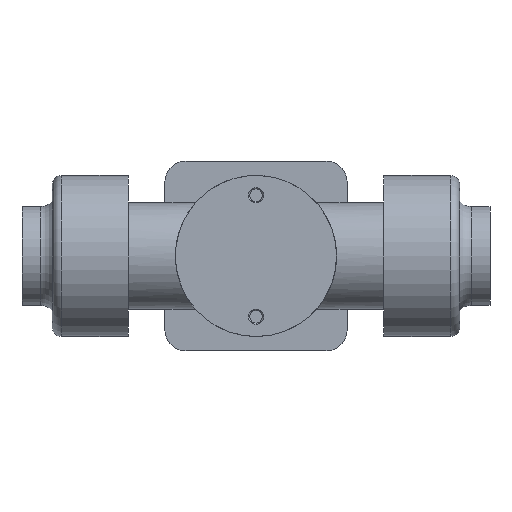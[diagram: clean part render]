
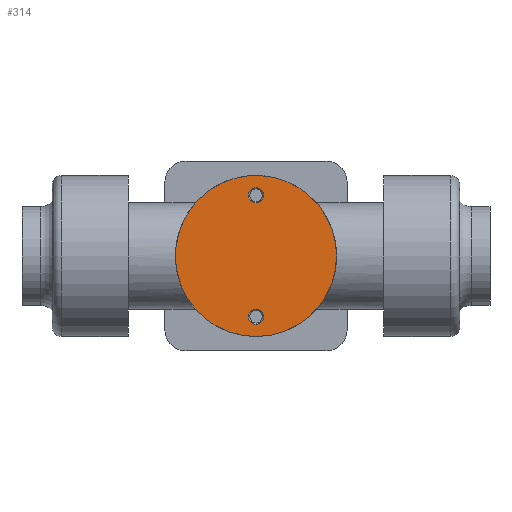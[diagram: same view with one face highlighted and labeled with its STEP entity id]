
A CAD part, front view. The second image highlights one B-rep face of the part: STEP entity #314.
In plain terms, the highlighted planar face has unit normal (0, -1, 0).
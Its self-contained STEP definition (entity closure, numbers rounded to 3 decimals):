
#314 = ADVANCED_FACE( '', ( #724, #725, #726 ), #727, .F. );
#724 = FACE_BOUND( '', #1213, .T. );
#725 = FACE_BOUND( '', #1214, .T. );
#726 = FACE_OUTER_BOUND( '', #1215, .T. );
#727 = PLANE( '', #1216 );
#1213 = EDGE_LOOP( '', ( #2029 ) );
#1214 = EDGE_LOOP( '', ( #2030 ) );
#1215 = EDGE_LOOP( '', ( #2031 ) );
#1216 = AXIS2_PLACEMENT_3D( '', #2032, #2033, #2034 );
#2029 = ORIENTED_EDGE( '', *, *, #2886, .T. );
#2030 = ORIENTED_EDGE( '', *, *, #2889, .F. );
#2031 = ORIENTED_EDGE( '', *, *, #2890, .F. );
#2032 = CARTESIAN_POINT( '', ( 0., -22., 0. ) );
#2033 = DIRECTION( '', ( 0., 1., 0. ) );
#2034 = DIRECTION( '', ( 0., 0., 1. ) );
#2886 = EDGE_CURVE( '', #3500, #3500, #3501, .T. );
#2889 = EDGE_CURVE( '', #3504, #3504, #3505, .T. );
#2890 = EDGE_CURVE( '', #3506, #3506, #3507, .T. );
#3500 = VERTEX_POINT( '', #4351 );
#3501 = CIRCLE( '', #4352, 2.5 );
#3504 = VERTEX_POINT( '', #4355 );
#3505 = CIRCLE( '', #4356, 2.5 );
#3506 = VERTEX_POINT( '', #4357 );
#3507 = CIRCLE( '', #4358, 26.5 );
#4351 = CARTESIAN_POINT( '', ( 0., -22., 22.5 ) );
#4352 = AXIS2_PLACEMENT_3D( '', #4998, #4999, #5000 );
#4355 = CARTESIAN_POINT( '', ( 0., -22., -22.5 ) );
#4356 = AXIS2_PLACEMENT_3D( '', #5001, #5002, #5003 );
#4357 = CARTESIAN_POINT( '', ( 26.5, -22., 0. ) );
#4358 = AXIS2_PLACEMENT_3D( '', #5004, #5005, #5006 );
#4998 = CARTESIAN_POINT( '', ( 0., -22., 20. ) );
#4999 = DIRECTION( '', ( 0., 1., 0. ) );
#5000 = DIRECTION( '', ( 0., 0., 1. ) );
#5001 = CARTESIAN_POINT( '', ( 0., -22., -20. ) );
#5002 = DIRECTION( '', ( 0., -1., 0. ) );
#5003 = DIRECTION( '', ( 0., 0., -1. ) );
#5004 = CARTESIAN_POINT( '', ( 0., -22., 0. ) );
#5005 = DIRECTION( '', ( 0., 1., 0. ) );
#5006 = DIRECTION( '', ( 1., 0., 0. ) );
